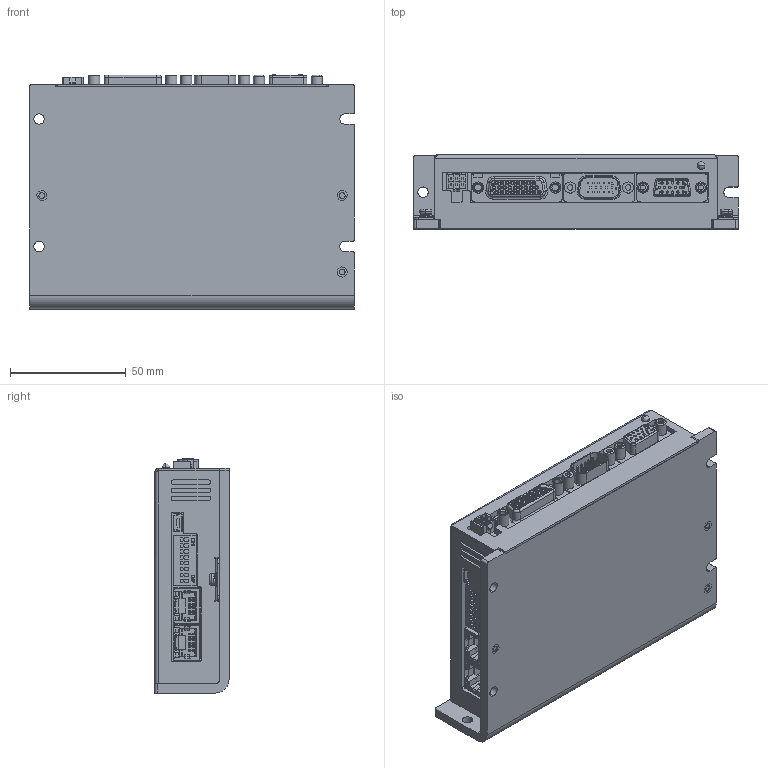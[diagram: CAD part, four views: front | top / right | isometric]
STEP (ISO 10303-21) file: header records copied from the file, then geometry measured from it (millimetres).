
FILE_DESCRIPTION (( 'STEP AP203' ), '1' );
FILE_NAME ('DC Drive total ass''y_1606071.STEP', '2016-06-07T00:23:37', ( 'Windows 餌辨濠' ), ( '' ), 'SwSTEP 2.0', 'SolidWorks 2011', '' );
FILE_SCHEMA (( 'CONFIG_CONTROL_DESIGN' ));
Products named in the file (1): DC Drive total ass''y_1606071
Bounding box: 140 x 32.02 x 101.05 mm (x, y, z)
Volume: 382875.3 mm3; surface area: 103920.8 mm2
Topology: 27 solids, 27 shells, 5710 faces, 15384 edges, 10134 vertices
Faces by surface type: plane 3728, bspline 1205, cylinder 648, cone 83, torus 28, sphere 18
Entity records: 228867 total; most frequent: CARTESIAN_POINT 93051, ORIENTED_EDGE 30760, DIRECTION 23070, EDGE_CURVE 15380, LINE 11328, VECTOR 11328, VERTEX_POINT 10132, EDGE_LOOP 6208
